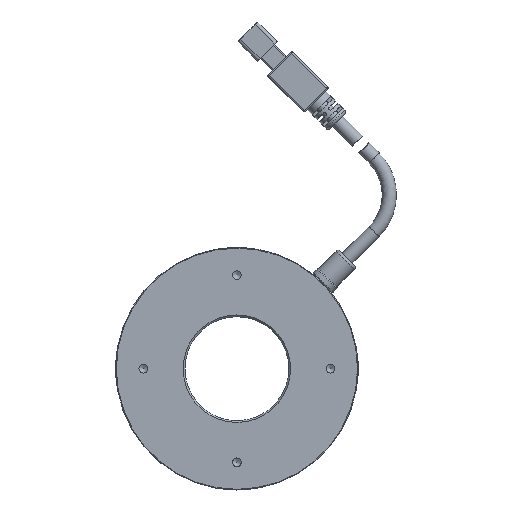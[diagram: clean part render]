
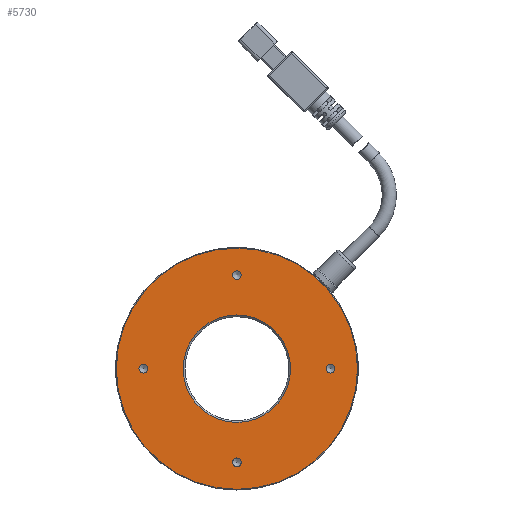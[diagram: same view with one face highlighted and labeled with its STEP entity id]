
A CAD part, front view. The second image highlights one B-rep face of the part: STEP entity #5730.
In plain terms, the highlighted planar face has unit normal (0, -1, 0).
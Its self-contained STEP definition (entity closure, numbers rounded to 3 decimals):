
#18 = DIRECTION ( 'NONE',  ( 0., 1., 0. ) ) ;
#31 = EDGE_CURVE ( 'NONE', #248, #248, #8657, .T. ) ;
#94 = DIRECTION ( 'NONE',  ( 0., 0., 1. ) ) ;
#195 = DIRECTION ( 'NONE',  ( 0., 0., -1. ) ) ;
#248 = VERTEX_POINT ( 'NONE', #1352 ) ;
#253 = EDGE_LOOP ( 'NONE', ( #7753 ) ) ;
#354 = CARTESIAN_POINT ( 'NONE',  ( 27., 0., 0. ) ) ;
#736 = VERTEX_POINT ( 'NONE', #2795 ) ;
#964 = AXIS2_PLACEMENT_3D ( 'NONE', #12631, #18, #4324 ) ;
#1352 = CARTESIAN_POINT ( 'NONE',  ( 0., 0., 25.75 ) ) ;
#1579 = VERTEX_POINT ( 'NONE', #8922 ) ;
#1688 = CARTESIAN_POINT ( 'NONE',  ( -27., 0., -1.25 ) ) ;
#1753 = CIRCLE ( 'NONE', #5870, 1.25 ) ;
#1923 = VERTEX_POINT ( 'NONE', #6027 ) ;
#2146 = CARTESIAN_POINT ( 'NONE',  ( 0., 0., 0. ) ) ;
#2747 = ORIENTED_EDGE ( 'NONE', *, *, #4449, .F. ) ;
#2795 = CARTESIAN_POINT ( 'NONE',  ( 0., 0., -28.25 ) ) ;
#3153 = FACE_BOUND ( 'NONE', #4128, .T. ) ;
#3167 = FACE_BOUND ( 'NONE', #10959, .T. ) ;
#3210 = AXIS2_PLACEMENT_3D ( 'NONE', #11985, #13072, #4716 ) ;
#3247 = PLANE ( 'NONE',  #7337 ) ;
#3487 = FACE_OUTER_BOUND ( 'NONE', #253, .T. ) ;
#3782 = EDGE_LOOP ( 'NONE', ( #5652 ) ) ;
#4028 = DIRECTION ( 'NONE',  ( 0., 0., -1. ) ) ;
#4128 = EDGE_LOOP ( 'NONE', ( #9275 ) ) ;
#4324 = DIRECTION ( 'NONE',  ( 0., 0., 1. ) ) ;
#4329 = CIRCLE ( 'NONE', #11145, 1.25 ) ;
#4448 = ORIENTED_EDGE ( 'NONE', *, *, #31, .F. ) ;
#4449 = EDGE_CURVE ( 'NONE', #1579, #1579, #4329, .T. ) ;
#4699 = DIRECTION ( 'NONE',  ( 0., 0., 1. ) ) ;
#4716 = DIRECTION ( 'NONE',  ( 0., 0., -1. ) ) ;
#5640 = EDGE_CURVE ( 'NONE', #1923, #1923, #7316, .T. ) ;
#5652 = ORIENTED_EDGE ( 'NONE', *, *, #12391, .F. ) ;
#5730 = ADVANCED_FACE ( 'NONE', ( #3153, #3487, #11541, #6614, #3167, #9075 ), #3247, .F. ) ;
#5870 = AXIS2_PLACEMENT_3D ( 'NONE', #6586, #11841, #195 ) ;
#6027 = CARTESIAN_POINT ( 'NONE',  ( 0., 0., 34.8 ) ) ;
#6586 = CARTESIAN_POINT ( 'NONE',  ( 0., 0., -27. ) ) ;
#6614 = FACE_BOUND ( 'NONE', #12553, .T. ) ;
#6756 = CARTESIAN_POINT ( 'NONE',  ( -35., 0., 0. ) ) ;
#7007 = CARTESIAN_POINT ( 'NONE',  ( 0., 0., 15.5 ) ) ;
#7316 = CIRCLE ( 'NONE', #10560, 34.8 ) ;
#7337 = AXIS2_PLACEMENT_3D ( 'NONE', #6756, #13003, #4699 ) ;
#7753 = ORIENTED_EDGE ( 'NONE', *, *, #5640, .T. ) ;
#7764 = DIRECTION ( 'NONE',  ( 0., -1., 0. ) ) ;
#8359 = VERTEX_POINT ( 'NONE', #7007 ) ;
#8657 = CIRCLE ( 'NONE', #9137, 1.25 ) ;
#8922 = CARTESIAN_POINT ( 'NONE',  ( 27., 0., -1.25 ) ) ;
#8924 = CIRCLE ( 'NONE', #964, 15.5 ) ;
#9075 = FACE_BOUND ( 'NONE', #3782, .T. ) ;
#9137 = AXIS2_PLACEMENT_3D ( 'NONE', #9270, #10334, #4028 ) ;
#9270 = CARTESIAN_POINT ( 'NONE',  ( 0., 0., 27. ) ) ;
#9275 = ORIENTED_EDGE ( 'NONE', *, *, #11008, .T. ) ;
#9834 = VERTEX_POINT ( 'NONE', #1688 ) ;
#10334 = DIRECTION ( 'NONE',  ( 0., -1., 0. ) ) ;
#10560 = AXIS2_PLACEMENT_3D ( 'NONE', #2146, #12721, #94 ) ;
#10959 = EDGE_LOOP ( 'NONE', ( #13030 ) ) ;
#11008 = EDGE_CURVE ( 'NONE', #8359, #8359, #8924, .T. ) ;
#11034 = DIRECTION ( 'NONE',  ( 0., 0., -1. ) ) ;
#11145 = AXIS2_PLACEMENT_3D ( 'NONE', #354, #7764, #11034 ) ;
#11487 = CIRCLE ( 'NONE', #3210, 1.25 ) ;
#11541 = FACE_BOUND ( 'NONE', #12717, .T. ) ;
#11841 = DIRECTION ( 'NONE',  ( 0., -1., 0. ) ) ;
#11985 = CARTESIAN_POINT ( 'NONE',  ( -27., 0., 0. ) ) ;
#12391 = EDGE_CURVE ( 'NONE', #9834, #9834, #11487, .T. ) ;
#12553 = EDGE_LOOP ( 'NONE', ( #2747 ) ) ;
#12631 = CARTESIAN_POINT ( 'NONE',  ( 0., 0., 0. ) ) ;
#12717 = EDGE_LOOP ( 'NONE', ( #4448 ) ) ;
#12721 = DIRECTION ( 'NONE',  ( 0., -1., 0. ) ) ;
#13003 = DIRECTION ( 'NONE',  ( 0., 1., 0. ) ) ;
#13030 = ORIENTED_EDGE ( 'NONE', *, *, #13586, .F. ) ;
#13072 = DIRECTION ( 'NONE',  ( 0., -1., 0. ) ) ;
#13586 = EDGE_CURVE ( 'NONE', #736, #736, #1753, .T. ) ;
